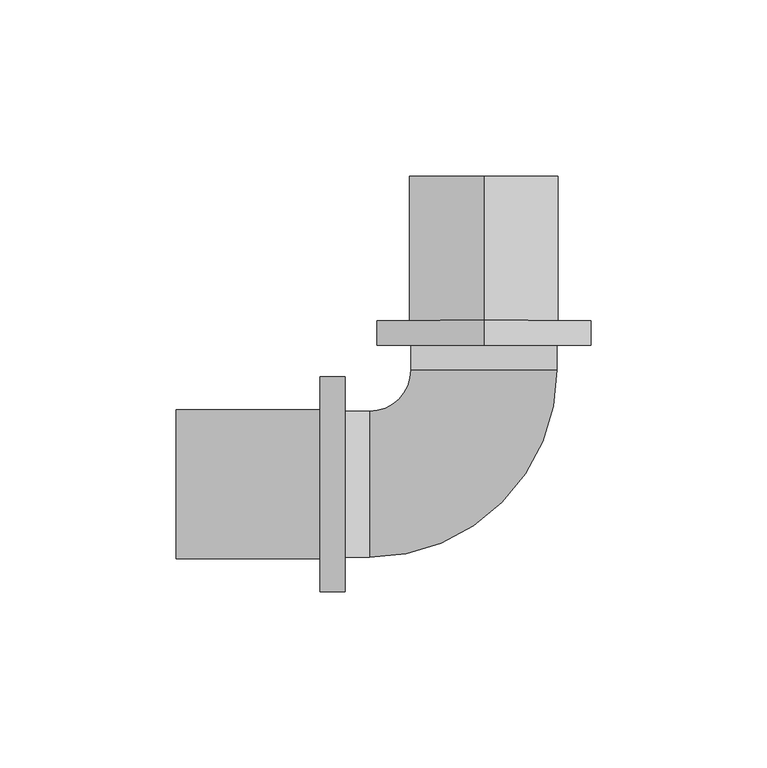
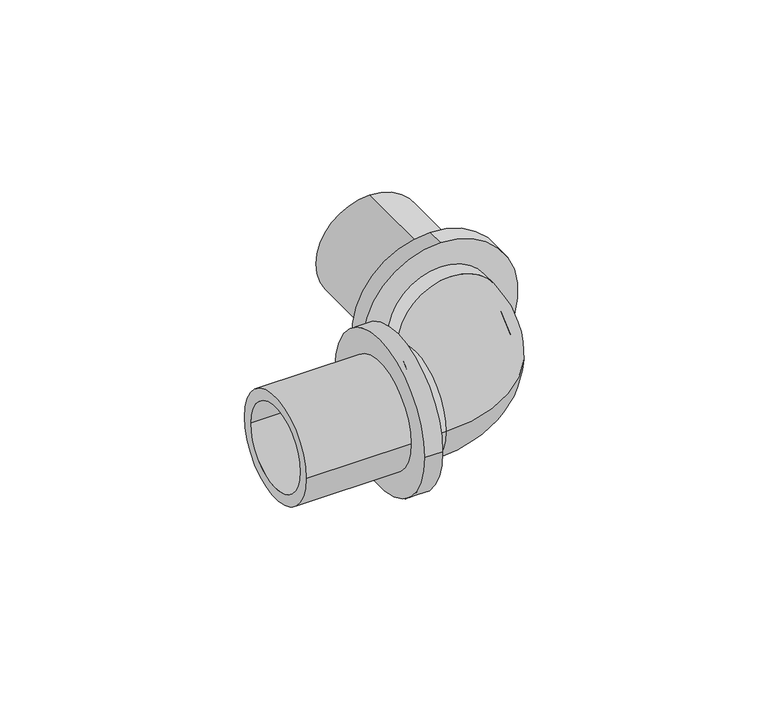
"""IFC4 building model written with IfcOpenShell, lengths in millimetres: pipe fitting geometry, RAUTITAN_Corner_RX+ stabil : RTI RX+ stabil C DN."""

from ifc_helpers import new_model, si_unit, point, frame, origin, place, context, project, spatial, polyline, circle_curve, ellipse_curve, trimmed, source, transform, mapped, element, save
from ifc_brep_helpers import plane_surface, cylinder_surface, revolved_surface, advanced_brep


def pipe_fitting_3218ae7d(model_context):
    return source(origin(), model_context, "Body", "AdvancedBrep", [
        advanced_brep(
        [(0.0, 46.5, 30.55), (0.0, 46.5, -30.55), (0.0, 39.5, -30.55), (0.0, 39.5, 30.55), (0.0, 87.5, 21.15), (0.0, 87.5, -21.15), (0.0, 46.5, -21.15), (0.0, 46.5, 21.15), (0.0, 39.5, 16.75), (0.0, 39.5, -16.75), (0.0, 87.5, -16.75), (0.0, 87.5, 16.75)],
        [
            (0, 1, circle_curve(frame((0.0, 46.5, 0.0), z_axis=(0.0, -1.0, 0.0), x_axis=(0.0, 0.0, -1.0)), 30.55)),
            (1, 2),
            (2, 3, circle_curve(frame((0.0, 39.5, 0.0), z_axis=(0.0, 1.0, 0.0), x_axis=(0.0, 0.0, -1.0)), 30.55)),
            (3, 0),
            (4, 5, circle_curve(frame((0.0, 87.5, 0.0), z_axis=(0.0, -1.0, 0.0), x_axis=(0.0, 0.0, -1.0)), 21.15)),
            (5, 6),
            (6, 7, circle_curve(frame((0.0, 46.5, 0.0), z_axis=(0.0, 1.0, 0.0), x_axis=(0.0, 0.0, -1.0)), 21.15)),
            (7, 4),
            (8, 9, circle_curve(frame((0.0, 39.5, 0.0), z_axis=(0.0, -1.0, 0.0), x_axis=(0.0, 0.0, -1.0)), 16.75)),
            (9, 10),
            (10, 11, circle_curve(frame((0.0, 87.5, 0.0), z_axis=(0.0, 1.0, 0.0), x_axis=(0.0, 0.0, -1.0)), 16.75)),
            (11, 8),
            (1, 0, circle_curve(frame((0.0, 46.5, 0.0), z_axis=(0.0, -1.0, 0.0), x_axis=(0.0, 0.0, 1.0)), 30.55)),
            (3, 2, circle_curve(frame((0.0, 39.5, 0.0), z_axis=(0.0, 1.0, 0.0), x_axis=(0.0, 0.0, 1.0)), 30.55)),
            (6, 7, circle_curve(frame((0.0, 46.5, 0.0), z_axis=(0.0, -1.0, 0.0), x_axis=(0.0, 0.0, 1.0)), 21.15)),
            (5, 4, circle_curve(frame((0.0, 87.5, 0.0), z_axis=(0.0, -1.0, 0.0), x_axis=(0.0, 0.0, 1.0)), 21.15)),
            (10, 11, circle_curve(frame((0.0, 87.5, 0.0), z_axis=(0.0, -1.0, 0.0), x_axis=(0.0, 0.0, 1.0)), 16.75)),
            (9, 8, circle_curve(frame((0.0, 39.5, 0.0), z_axis=(0.0, -1.0, 0.0), x_axis=(0.0, 0.0, 1.0)), 16.75)),
        ],
        [
            cylinder_surface(frame((0.0, 39.5, 0.0), z_axis=(0.0, 1.0, 0.0), x_axis=(0.0, 0.0, -1.0)), 30.55),
            cylinder_surface(frame((0.0, 39.5, 0.0), z_axis=(0.0, 1.0, 0.0), x_axis=(0.0, 0.0, -1.0)), 21.15),
            revolved_surface(polyline([(0.0, 87.5, -16.75), (0.0, 39.5, -16.75)]), (0.0, 39.5, 0.0), (0.0, 1.0, 0.0)),
            cylinder_surface(frame((0.0, 39.5, 0.0), z_axis=(0.0, 1.0, 0.0), x_axis=(0.0, 0.0, 1.0)), 30.55),
            plane_surface(frame((0.0, 46.5, 0.0), z_axis=(0.0, 1.0, 0.0), x_axis=(0.0, 0.0, 1.0))),
            cylinder_surface(frame((0.0, 39.5, 0.0), z_axis=(0.0, 1.0, 0.0), x_axis=(0.0, 0.0, 1.0)), 21.15),
            plane_surface(frame((0.0, 87.5, 0.0), z_axis=(0.0, 1.0, 0.0), x_axis=(0.0, 0.0, 1.0))),
            revolved_surface(polyline([(0.0, 87.5, 16.75), (0.0, 39.5, 16.75)]), (0.0, 39.5, 0.0), (0.0, 1.0, 0.0)),
            plane_surface(frame((0.0, 39.5, 0.0), z_axis=(0.0, -1.0, 0.0), x_axis=(0.0, 0.0, 1.0))),
        ],
        [
            (0, [[1, 2, 3, 4]]),
            (1, [[5, 6, 7, 8]]),
            (2, [[9, 10, 11, 12]]),
            (3, [[13, -4, 14, -2]]),
            (4, [[-13, -1], [15, -7]]),
            (5, [[16, -8, -15, -6]]),
            (6, [[-16, -5], [17, -11]]),
            (7, [[18, -12, -17, -10]]),
            (8, [[-14, -3], [-18, -9]]),
        ],
    ),
        advanced_brep(
        [(-46.5, -30.55, 0.0), (-46.5, 30.55, 0.0), (-39.5, 30.55, 0.0), (-39.5, -30.55, 0.0), (-87.5, -21.15, 0.0), (-87.5, 21.15, 0.0), (-46.5, 21.15, 0.0), (-46.5, -21.15, 0.0), (-39.5, -16.75, 0.0), (-39.5, 16.75, 0.0), (-87.5, 16.75, 0.0), (-87.5, -16.75, 0.0)],
        [
            (0, 1, circle_curve(frame((-46.5, 0.0, 0.0), z_axis=(1.0, 0.0, 0.0), x_axis=(0.0, 1.0, 0.0)), 30.55)),
            (1, 2),
            (2, 3, circle_curve(frame((-39.5, 0.0, 0.0), z_axis=(-1.0, 0.0, 0.0), x_axis=(0.0, 1.0, 0.0)), 30.55)),
            (3, 0),
            (4, 5, circle_curve(frame((-87.5, 0.0, 0.0), z_axis=(1.0, 0.0, 0.0), x_axis=(0.0, 1.0, 0.0)), 21.15)),
            (5, 6),
            (6, 7, circle_curve(frame((-46.5, 0.0, 0.0), z_axis=(-1.0, 0.0, 0.0), x_axis=(0.0, 1.0, 0.0)), 21.15)),
            (7, 4),
            (8, 9, circle_curve(frame((-39.5, 0.0, 0.0), z_axis=(1.0, 0.0, 0.0), x_axis=(0.0, 1.0, 0.0)), 16.75)),
            (9, 10),
            (10, 11, circle_curve(frame((-87.5, 0.0, 0.0), z_axis=(-1.0, 0.0, 0.0), x_axis=(0.0, 1.0, 0.0)), 16.75)),
            (11, 8),
            (1, 0, circle_curve(frame((-46.5, 0.0, 0.0), z_axis=(1.0, 0.0, 0.0), x_axis=(0.0, -1.0, 0.0)), 30.55)),
            (3, 2, circle_curve(frame((-39.5, 0.0, 0.0), z_axis=(-1.0, 0.0, 0.0), x_axis=(0.0, -1.0, 0.0)), 30.55)),
            (6, 7, circle_curve(frame((-46.5, 0.0, 0.0), z_axis=(1.0, 0.0, 0.0), x_axis=(0.0, -1.0, 0.0)), 21.15)),
            (5, 4, circle_curve(frame((-87.5, 0.0, 0.0), z_axis=(1.0, 0.0, 0.0), x_axis=(0.0, -1.0, 0.0)), 21.15)),
            (10, 11, circle_curve(frame((-87.5, 0.0, 0.0), z_axis=(1.0, 0.0, 0.0), x_axis=(0.0, -1.0, 0.0)), 16.75)),
            (9, 8, circle_curve(frame((-39.5, 0.0, 0.0), z_axis=(1.0, 0.0, 0.0), x_axis=(0.0, -1.0, 0.0)), 16.75)),
        ],
        [
            cylinder_surface(frame((-39.5, 0.0, 0.0), z_axis=(-1.0, 0.0, 0.0), x_axis=(0.0, 1.0, 0.0)), 30.55),
            cylinder_surface(frame((-39.5, 0.0, 0.0), z_axis=(-1.0, 0.0, 0.0), x_axis=(0.0, 1.0, 0.0)), 21.15),
            revolved_surface(polyline([(-87.5, 16.75, 0.0), (-39.5, 16.75, 0.0)]), (-39.5, 0.0, 0.0), (-1.0, 0.0, 0.0)),
            cylinder_surface(frame((-39.5, 0.0, 0.0), z_axis=(-1.0, 0.0, 0.0), x_axis=(0.0, -1.0, 0.0)), 30.55),
            plane_surface(frame((-46.5, 0.0, 0.0), z_axis=(-1.0, 0.0, 0.0), x_axis=(0.0, -1.0, 0.0))),
            cylinder_surface(frame((-39.5, 0.0, 0.0), z_axis=(-1.0, 0.0, 0.0), x_axis=(0.0, -1.0, 0.0)), 21.15),
            plane_surface(frame((-87.5, 0.0, 0.0), z_axis=(-1.0, 0.0, 0.0), x_axis=(0.0, -1.0, 0.0))),
            revolved_surface(polyline([(-87.5, -16.75, 0.0), (-39.5, -16.75, 0.0)]), (-39.5, 0.0, 0.0), (-1.0, 0.0, 0.0)),
            plane_surface(frame((-39.5, 0.0, 0.0), z_axis=(1.0, 0.0, 0.0), x_axis=(0.0, -1.0, 0.0))),
        ],
        [
            (0, [[1, 2, 3, 4]]),
            (1, [[5, 6, 7, 8]]),
            (2, [[9, 10, 11, 12]]),
            (3, [[13, -4, 14, -2]]),
            (4, [[-13, -1], [15, -7]]),
            (5, [[16, -8, -15, -6]]),
            (6, [[-16, -5], [17, -11]]),
            (7, [[18, -12, -17, -10]]),
            (8, [[-14, -3], [-18, -9]]),
        ],
    ),
        advanced_brep(
        [(-39.5, 20.75, 0.0), (-39.5, -20.75, 0.0), (-39.5, 16.75, 0.0), (-39.5, -16.75, 0.0), (-32.55, -16.75, 0.0), (-32.55, 16.75, 0.0), (-32.55, -20.75, 0.0), (-32.55, 20.75, 0.0), (20.75, 39.5, 0.0), (-20.75, 39.5, 0.0), (16.75, 39.5, 0.0), (-16.75, 39.5, 0.0), (-16.75, 32.55, 0.0), (16.75, 32.55, 0.0), (-20.75, 32.55, 0.0), (20.75, 32.55, 0.0)],
        [
            (0, 1, circle_curve(frame((-39.5, 0.0, 0.0), z_axis=(-1.0, 0.0, 0.0), x_axis=(0.0, -1.0, 0.0)), 20.75)),
            (1, 0, circle_curve(frame((-39.5, 0.0, 0.0), z_axis=(-1.0, 0.0, 0.0), x_axis=(0.0, -1.0, 0.0)), 20.75)),
            (2, 3, circle_curve(frame((-39.5, 0.0, 0.0), z_axis=(1.0, 0.0, 0.0), x_axis=(0.0, -1.0, 0.0)), 16.75)),
            (3, 2, circle_curve(frame((-39.5, 0.0, 0.0), z_axis=(1.0, 0.0, 0.0), x_axis=(0.0, -1.0, 0.0)), 16.75)),
            (3, 4),
            (4, 5, circle_curve(frame((-32.55, 0.0, 0.0), z_axis=(1.0, 0.0, 0.0), x_axis=(0.0, -1.0, 0.0)), 16.75)),
            (5, 2),
            (5, 4, circle_curve(frame((-32.55, 0.0, 0.0), z_axis=(1.0, 0.0, 0.0), x_axis=(0.0, -1.0, 0.0)), 16.75)),
            (1, 6),
            (6, 7, circle_curve(frame((-32.55, 0.0, 0.0), z_axis=(-1.0, 0.0, 0.0), x_axis=(0.0, -1.0, 0.0)), 20.75)),
            (7, 0),
            (7, 6, circle_curve(frame((-32.55, 0.0, 0.0), z_axis=(-1.0, 0.0, 0.0), x_axis=(0.0, -1.0, 0.0)), 20.75)),
            (8, 9, circle_curve(frame((0.0, 39.5, 0.0), z_axis=(0.0, 1.0, 0.0), x_axis=(-1.0, 0.0, 0.0)), 20.75)),
            (9, 8, circle_curve(frame((0.0, 39.5, 0.0), z_axis=(0.0, 1.0, 0.0), x_axis=(-1.0, 0.0, 0.0)), 20.75)),
            (10, 11, circle_curve(frame((0.0, 39.5, 0.0), z_axis=(0.0, -1.0, 0.0), x_axis=(-1.0, 0.0, 0.0)), 16.75)),
            (11, 10, circle_curve(frame((0.0, 39.5, 0.0), z_axis=(0.0, -1.0, 0.0), x_axis=(-1.0, 0.0, 0.0)), 16.75)),
            (11, 12),
            (12, 13, circle_curve(frame((0.0, 32.55, 0.0), z_axis=(0.0, -1.0, 0.0), x_axis=(-1.0, 0.0, 0.0)), 16.75)),
            (13, 10),
            (13, 12, circle_curve(frame((0.0, 32.55, 0.0), z_axis=(0.0, -1.0, 0.0), x_axis=(-1.0, 0.0, 0.0)), 16.75)),
            (9, 14),
            (14, 15, circle_curve(frame((0.0, 32.55, 0.0), z_axis=(0.0, 1.0, 0.0), x_axis=(-1.0, 0.0, 0.0)), 20.75)),
            (15, 8),
            (15, 14, circle_curve(frame((0.0, 32.55, 0.0), z_axis=(0.0, 1.0, 0.0), x_axis=(-1.0, 0.0, 0.0)), 20.75)),
            (12, 5, circle_curve(frame((-32.55, 32.55, 0.0), z_axis=(0.0, 0.0, -1.0), x_axis=(0.0, -1.0, 0.0)), 15.8)),
            (4, 13, circle_curve(frame((-32.55, 32.55, 0.0), z_axis=(0.0, 0.0, 1.0), x_axis=(0.0, -1.0, 0.0)), 49.3)),
            (14, 7, circle_curve(frame((-32.55, 32.55, 0.0), z_axis=(0.0, 0.0, -1.0), x_axis=(0.0, -1.0, 0.0)), 11.8)),
            (6, 15, circle_curve(frame((-32.55, 32.55, 0.0), z_axis=(0.0, 0.0, 1.0), x_axis=(0.0, -1.0, 0.0)), 53.3)),
        ],
        [
            plane_surface(frame((-39.5, 0.0, 0.0), z_axis=(-1.0, 0.0, 0.0), x_axis=(0.0, 0.0, 1.0))),
            revolved_surface(polyline([(-39.5, -16.75, 0.0), (-32.55, -16.75, 0.0)]), (-32.55, 0.0, 0.0), (-1.0, 0.0, 0.0)),
            cylinder_surface(frame((-32.55, 0.0, 0.0), z_axis=(1.0, 0.0, 0.0), x_axis=(0.0, -1.0, 0.0)), 20.75),
            plane_surface(frame((0.0, 39.5, 0.0), z_axis=(0.0, 1.0, 0.0), x_axis=(0.0, 0.0, 1.0))),
            revolved_surface(polyline([(-16.75, 39.5, 0.0), (-16.75, 32.55, 0.0)]), (0.0, 32.55, 0.0), (0.0, 1.0, 0.0)),
            cylinder_surface(frame((0.0, 32.55, 0.0), z_axis=(0.0, -1.0, 0.0), x_axis=(-1.0, 0.0, 0.0)), 20.75),
            revolved_surface(trimmed(ellipse_curve(frame((-32.55, 0.0, 0.0), z_axis=(1.0, 0.0, 0.0), x_axis=(0.0, 1.0, 0.0)), 16.75, 16.75), [point((-32.55, -16.75, 0.0))], [point((-32.55, 16.75, 0.0))], True, "CARTESIAN"), (-32.55, 32.55, 0.0), (0.0, 0.0, 1.0)),
            revolved_surface(trimmed(ellipse_curve(frame((-32.55, 0.0, 0.0), z_axis=(1.0, 0.0, 0.0), x_axis=(0.0, 1.0, 0.0)), 16.75, 16.75), [point((-32.55, 16.75, 0.0))], [point((-32.55, -16.75, 0.0))], True, "CARTESIAN"), (-32.55, 32.55, 0.0), (0.0, 0.0, 1.0)),
            revolved_surface(trimmed(ellipse_curve(frame((-32.55, 0.0, 0.0), z_axis=(-1.0, 0.0, 0.0), x_axis=(0.0, 1.0, 0.0)), 20.75, 20.75), [point((-32.55, -20.75, 0.0))], [point((-32.55, 20.75, 0.0))], True, "CARTESIAN"), (-32.55, 32.55, 0.0), (0.0, 0.0, 1.0)),
            revolved_surface(trimmed(ellipse_curve(frame((-32.55, 0.0, 0.0), z_axis=(-1.0, 0.0, 0.0), x_axis=(0.0, 1.0, 0.0)), 20.75, 20.75), [point((-32.55, 20.75, 0.0))], [point((-32.55, -20.75, 0.0))], True, "CARTESIAN"), (-32.55, 32.55, 0.0), (0.0, 0.0, 1.0)),
        ],
        [
            (0, [[1, 2], [3, 4]]),
            (1, [[-4, 5, 6, 7]]),
            (1, [[-3, -7, 8, -5]]),
            (2, [[-2, 9, 10, 11]]),
            (2, [[-1, -11, 12, -9]]),
            (3, [[13, 14], [15, 16]]),
            (4, [[-16, 17, 18, 19]]),
            (4, [[-15, -19, 20, -17]]),
            (5, [[-14, 21, 22, 23]]),
            (5, [[-13, -23, 24, -21]]),
            (6, [[25, -6, 26, -18]]),
            (7, [[-25, -20, -26, -8]]),
            (8, [[27, -10, 28, -22]]),
            (9, [[-27, -24, -28, -12]]),
        ],
    ),
    ])


if __name__ == "__main__":
    model = new_model("IFC4")
    model_context = context("Model", 3, world=origin())
    ifc_project = project(units=[si_unit("LENGTHUNIT", "METRE", prefix="MILLI")], contexts=[model_context])
    site = spatial("IfcSite", under=ifc_project)
    building = spatial("IfcBuilding", under=site)
    placement = place(None, origin())
    pipe_fitting_shape = pipe_fitting_3218ae7d(model_context)
    element("IfcPipeFitting", 1, ObjectType="RAUTITAN_Corner_RX+ stabil : RTI RX+ stabil C DN", at=placement, inside=building, context=model_context, shape_type="MappedRepresentation", body=[
        mapped(pipe_fitting_shape, transform((0.0, 0.0, 0.0), x_axis=(1.0, 0.0, 0.0), y_axis=(0.0, 1.0, 0.0), z_axis=(0.0, 0.0, 1.0))),
    ])
    save(model, "model.ifc")
